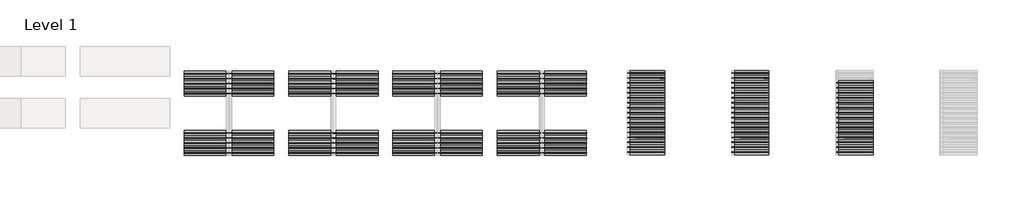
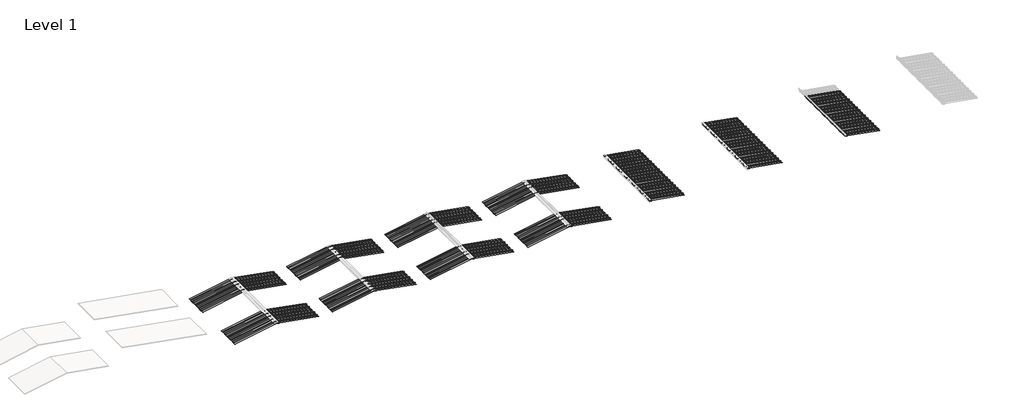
# One storey, part 1 of 14: 129 members.
"""IFC4 building model written with IfcOpenShell, lengths in millimetres."""

from ifc_helpers import new_model, si_unit, origin, place, context, project, spatial, transform, mapped, element, save
from components import rectangular_mullion_85015836, rectangular_mullion_6e78ad83

model = new_model("IFC4")

# Units and contexts
model_context = context("Model", 3, world=origin())
ifc_project = project(units=[si_unit("LENGTHUNIT", "METRE", prefix="MILLI")], contexts=[model_context])

# Site, building, storey
site = spatial("IfcSite", under=ifc_project)
building = spatial("IfcBuilding", under=site)
storey = spatial("IfcBuildingStorey", under=building, Name="Level 1", Elevation=0.0)

# Members
placement = place(None, origin())
rectangular_mullion_shape = rectangular_mullion_85015836(model_context)
element("IfcMember", 1, ObjectType="Rectangular Mullion : Parisienne 1000 - Metal - AZURO 0102", at=placement, inside=storey, context=model_context, shape_type="MappedRepresentation", body=[
    mapped(rectangular_mullion_shape, transform((-10442.9704237, 42107.7785953, 546.6136402), x_axis=(0.0, 1.0, 0.0), y_axis=(-0.17364817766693, 0.0, -0.9848077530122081), z_axis=(-0.9848077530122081, 0.0, 0.17364817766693))),
])
element("IfcMember", 2, ObjectType="Rectangular Mullion : Parisienne 1000 - Metal - AZURO 0102", at=placement, inside=storey, context=model_context, shape_type="MappedRepresentation", body=[
    mapped(rectangular_mullion_shape, transform((-10442.9704237, 42440.7785953, 546.6136402), x_axis=(0.0, 1.0, 0.0), y_axis=(-0.17364817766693, 0.0, -0.9848077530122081), z_axis=(-0.9848077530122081, 0.0, 0.17364817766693))),
])
element("IfcMember", 3, ObjectType="Rectangular Mullion : Parisienne 1000 - Metal - AZURO 0102", at=placement, inside=storey, context=model_context, shape_type="MappedRepresentation", body=[
    mapped(rectangular_mullion_shape, transform((-10442.9704237, 42773.7785953, 546.6136402), x_axis=(0.0, 1.0, 0.0), y_axis=(-0.17364817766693, 0.0, -0.9848077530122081), z_axis=(-0.9848077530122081, 0.0, 0.17364817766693))),
])
element("IfcMember", 4, ObjectType="Rectangular Mullion : Parisienne 1000 - Metal - AZURO 0102", at=placement, inside=storey, context=model_context, shape_type="MappedRepresentation", body=[
    mapped(rectangular_mullion_shape, transform((-10442.9704237, 43106.7785953, 546.6136402), x_axis=(0.0, 1.0, 0.0), y_axis=(-0.17364817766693, 0.0, -0.9848077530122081), z_axis=(-0.9848077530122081, 0.0, 0.17364817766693))),
])
element("IfcMember", 5, ObjectType="Rectangular Mullion : Parisienne 1000 - Metal - AZURO 0102", at=placement, inside=storey, context=model_context, shape_type="MappedRepresentation", body=[
    mapped(rectangular_mullion_shape, transform((-10442.9704237, 43439.7785953, 546.6136402), x_axis=(0.0, 1.0, 0.0), y_axis=(-0.17364817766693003, 0.0, -0.9848077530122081), z_axis=(-0.9848077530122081, 0.0, 0.17364817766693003))),
])
element("IfcMember", 6, ObjectType="Rectangular Mullion : Parisienne 1000 - Metal - AZURO 0102", at=placement, inside=storey, context=model_context, shape_type="MappedRepresentation", body=[
    mapped(rectangular_mullion_shape, transform((-10442.9704237, 46103.7785953, 546.6136402), x_axis=(0.0, 1.0, 0.0), y_axis=(-0.17364817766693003, 0.0, -0.9848077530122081), z_axis=(-0.9848077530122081, 0.0, 0.17364817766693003))),
])
element("IfcMember", 7, ObjectType="Rectangular Mullion : Parisienne 1000 - Metal - AZURO 0102", at=placement, inside=storey, context=model_context, shape_type="MappedRepresentation", body=[
    mapped(rectangular_mullion_shape, transform((-10442.9704237, 46436.7785953, 546.6136402), x_axis=(0.0, 1.0, 0.0), y_axis=(-0.17364817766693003, 0.0, -0.9848077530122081), z_axis=(-0.9848077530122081, 0.0, 0.17364817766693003))),
])
element("IfcMember", 8, ObjectType="Rectangular Mullion : Parisienne 1000 - Metal - AZURO 0102", at=placement, inside=storey, context=model_context, shape_type="MappedRepresentation", body=[
    mapped(rectangular_mullion_shape, transform((-10442.9704237, 46769.7785953, 546.6136402), x_axis=(0.0, 1.0, 0.0), y_axis=(-0.17364817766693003, 0.0, -0.9848077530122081), z_axis=(-0.9848077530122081, 0.0, 0.17364817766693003))),
])
element("IfcMember", 9, ObjectType="Rectangular Mullion : Parisienne 1000 - Metal - AZURO 0102", at=placement, inside=storey, context=model_context, shape_type="MappedRepresentation", body=[
    mapped(rectangular_mullion_shape, transform((-10442.9704237, 47102.7785953, 546.6136402), x_axis=(0.0, 1.0, 0.0), y_axis=(-0.17364817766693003, 0.0, -0.9848077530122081), z_axis=(-0.9848077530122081, 0.0, 0.17364817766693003))),
])
element("IfcMember", 10, ObjectType="Rectangular Mullion : Parisienne 1000 - Metal - AZURO 0102", at=placement, inside=storey, context=model_context, shape_type="MappedRepresentation", body=[
    mapped(rectangular_mullion_shape, transform((-10442.9704237, 47435.7785953, 546.6136402), x_axis=(0.0, 1.0, 0.0), y_axis=(-0.17364817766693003, 0.0, -0.9848077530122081), z_axis=(-0.9848077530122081, 0.0, 0.17364817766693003))),
])
element("IfcMember", 11, ObjectType="Rectangular Mullion : Parisienne 1000 - Metal - AZURO 0102", at=placement, inside=storey, context=model_context, shape_type="MappedRepresentation", body=[
    mapped(rectangular_mullion_shape, transform((-10442.9704237, 47435.7785953, 546.6136402), x_axis=(0.0, -1.0, 0.0), y_axis=(0.1736481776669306, 0.0, -0.984807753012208), z_axis=(0.984807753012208, 0.0, 0.1736481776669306))),
])
element("IfcMember", 12, ObjectType="Rectangular Mullion : Parisienne 1000 - Metal - AZURO 0102", at=placement, inside=storey, context=model_context, shape_type="MappedRepresentation", body=[
    mapped(rectangular_mullion_shape, transform((-10442.9704237, 47102.7785953, 546.6136402), x_axis=(0.0, -1.0, 0.0), y_axis=(0.1736481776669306, 0.0, -0.984807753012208), z_axis=(0.984807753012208, 0.0, 0.1736481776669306))),
])
element("IfcMember", 13, ObjectType="Rectangular Mullion : Parisienne 1000 - Metal - AZURO 0102", at=placement, inside=storey, context=model_context, shape_type="MappedRepresentation", body=[
    mapped(rectangular_mullion_shape, transform((-10442.9704237, 46769.7785953, 546.6136402), x_axis=(0.0, -1.0, 0.0), y_axis=(0.1736481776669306, 0.0, -0.984807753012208), z_axis=(0.984807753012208, 0.0, 0.1736481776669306))),
])
element("IfcMember", 14, ObjectType="Rectangular Mullion : Parisienne 1000 - Metal - AZURO 0102", at=placement, inside=storey, context=model_context, shape_type="MappedRepresentation", body=[
    mapped(rectangular_mullion_shape, transform((-10442.9704237, 46436.7785953, 546.6136402), x_axis=(0.0, -1.0, 0.0), y_axis=(0.1736481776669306, 0.0, -0.984807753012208), z_axis=(0.984807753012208, 0.0, 0.1736481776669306))),
])
element("IfcMember", 15, ObjectType="Rectangular Mullion : Parisienne 1000 - Metal - AZURO 0102", at=placement, inside=storey, context=model_context, shape_type="MappedRepresentation", body=[
    mapped(rectangular_mullion_shape, transform((-10442.9704237, 46103.7785953, 546.6136402), x_axis=(0.0, -1.0, 0.0), y_axis=(0.1736481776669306, 0.0, -0.984807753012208), z_axis=(0.984807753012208, 0.0, 0.1736481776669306))),
])
element("IfcMember", 16, ObjectType="Rectangular Mullion : Parisienne 1000 - Metal - AZURO 0102", at=placement, inside=storey, context=model_context, shape_type="MappedRepresentation", body=[
    mapped(rectangular_mullion_shape, transform((-10442.9704237, 43439.7785953, 546.6136402), x_axis=(0.0, -1.0, 0.0), y_axis=(0.1736481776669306, 0.0, -0.984807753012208), z_axis=(0.984807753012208, 0.0, 0.1736481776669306))),
])
element("IfcMember", 17, ObjectType="Rectangular Mullion : Parisienne 1000 - Metal - AZURO 0102", at=placement, inside=storey, context=model_context, shape_type="MappedRepresentation", body=[
    mapped(rectangular_mullion_shape, transform((-10442.9704237, 43106.7785953, 546.6136402), x_axis=(0.0, -1.0, 0.0), y_axis=(0.1736481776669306, 0.0, -0.984807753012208), z_axis=(0.984807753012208, 0.0, 0.1736481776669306))),
])
element("IfcMember", 18, ObjectType="Rectangular Mullion : Parisienne 1000 - Metal - AZURO 0102", at=placement, inside=storey, context=model_context, shape_type="MappedRepresentation", body=[
    mapped(rectangular_mullion_shape, transform((-10442.9704237, 42773.7785953, 546.6136402), x_axis=(0.0, -1.0, 0.0), y_axis=(0.17364817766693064, 0.0, -0.984807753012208), z_axis=(0.984807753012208, 0.0, 0.17364817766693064))),
])
element("IfcMember", 19, ObjectType="Rectangular Mullion : Parisienne 1000 - Metal - AZURO 0102", at=placement, inside=storey, context=model_context, shape_type="MappedRepresentation", body=[
    mapped(rectangular_mullion_shape, transform((-10442.9704237, 42440.7785953, 546.6136402), x_axis=(0.0, -1.0, 0.0), y_axis=(0.1736481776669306, 0.0, -0.984807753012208), z_axis=(0.984807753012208, 0.0, 0.1736481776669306))),
])
element("IfcMember", 20, ObjectType="Rectangular Mullion : Parisienne 1000 - Metal - AZURO 0102", at=placement, inside=storey, context=model_context, shape_type="MappedRepresentation", body=[
    mapped(rectangular_mullion_shape, transform((-10442.9704237, 42107.7785953, 546.6136402), x_axis=(0.0, -1.0, 0.0), y_axis=(0.1736481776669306, 0.0, -0.984807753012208), z_axis=(0.984807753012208, 0.0, 0.1736481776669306))),
])
element("IfcMember", 21, ObjectType="Rectangular Mullion : Parisienne 1000 - Metal - AZURO 0102", at=placement, inside=storey, context=model_context, shape_type="MappedRepresentation", body=[
    mapped(rectangular_mullion_shape, transform((-3442.9704237, 42107.7785953, 546.6136402), x_axis=(0.0, 1.0, 0.0), y_axis=(-0.1736481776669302, 0.0, -0.9848077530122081), z_axis=(-0.984807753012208, 0.0, 0.17364817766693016))),
])
element("IfcMember", 22, ObjectType="Rectangular Mullion : Parisienne 1000 - Metal - AZURO 0102", at=placement, inside=storey, context=model_context, shape_type="MappedRepresentation", body=[
    mapped(rectangular_mullion_shape, transform((-3442.9704237, 42440.7785953, 546.6136402), x_axis=(0.0, 1.0, 0.0), y_axis=(-0.1736481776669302, 0.0, -0.9848077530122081), z_axis=(-0.984807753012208, 0.0, 0.17364817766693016))),
])
element("IfcMember", 23, ObjectType="Rectangular Mullion : Parisienne 1000 - Metal - AZURO 0102", at=placement, inside=storey, context=model_context, shape_type="MappedRepresentation", body=[
    mapped(rectangular_mullion_shape, transform((-3442.9704237, 42773.7785953, 546.6136402), x_axis=(0.0, 1.0, 0.0), y_axis=(-0.1736481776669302, 0.0, -0.9848077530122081), z_axis=(-0.984807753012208, 0.0, 0.17364817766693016))),
])
element("IfcMember", 24, ObjectType="Rectangular Mullion : Parisienne 1000 - Metal - AZURO 0102", at=placement, inside=storey, context=model_context, shape_type="MappedRepresentation", body=[
    mapped(rectangular_mullion_shape, transform((-3442.9704237, 43106.7785953, 546.6136402), x_axis=(0.0, 1.0, 0.0), y_axis=(-0.1736481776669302, 0.0, -0.9848077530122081), z_axis=(-0.984807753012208, 0.0, 0.17364817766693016))),
])
element("IfcMember", 25, ObjectType="Rectangular Mullion : Parisienne 1000 - Metal - AZURO 0102", at=placement, inside=storey, context=model_context, shape_type="MappedRepresentation", body=[
    mapped(rectangular_mullion_shape, transform((-3442.9704237, 43439.7785953, 546.6136402), x_axis=(0.0, 1.0, 0.0), y_axis=(-0.1736481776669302, 0.0, -0.9848077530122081), z_axis=(-0.984807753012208, 0.0, 0.17364817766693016))),
])
element("IfcMember", 26, ObjectType="Rectangular Mullion : Parisienne 1000 - Metal - AZURO 0102", at=placement, inside=storey, context=model_context, shape_type="MappedRepresentation", body=[
    mapped(rectangular_mullion_shape, transform((-3442.9704237, 46103.7785953, 546.6136402), x_axis=(0.0, 1.0, 0.0), y_axis=(-0.1736481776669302, 0.0, -0.9848077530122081), z_axis=(-0.984807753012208, 0.0, 0.17364817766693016))),
])
element("IfcMember", 27, ObjectType="Rectangular Mullion : Parisienne 1000 - Metal - AZURO 0102", at=placement, inside=storey, context=model_context, shape_type="MappedRepresentation", body=[
    mapped(rectangular_mullion_shape, transform((-3442.9704237, 46436.7785953, 546.6136402), x_axis=(0.0, 1.0, 0.0), y_axis=(-0.1736481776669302, 0.0, -0.9848077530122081), z_axis=(-0.984807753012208, 0.0, 0.17364817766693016))),
])
element("IfcMember", 28, ObjectType="Rectangular Mullion : Parisienne 1000 - Metal - AZURO 0102", at=placement, inside=storey, context=model_context, shape_type="MappedRepresentation", body=[
    mapped(rectangular_mullion_shape, transform((-3442.9704237, 46769.7785953, 546.6136402), x_axis=(0.0, 1.0, 0.0), y_axis=(-0.1736481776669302, 0.0, -0.9848077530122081), z_axis=(-0.984807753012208, 0.0, 0.17364817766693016))),
])
element("IfcMember", 29, ObjectType="Rectangular Mullion : Parisienne 1000 - Metal - AZURO 0102", at=placement, inside=storey, context=model_context, shape_type="MappedRepresentation", body=[
    mapped(rectangular_mullion_shape, transform((-3442.9704237, 47102.7785953, 546.6136402), x_axis=(0.0, 1.0, 0.0), y_axis=(-0.1736481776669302, 0.0, -0.9848077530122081), z_axis=(-0.984807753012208, 0.0, 0.17364817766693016))),
])
element("IfcMember", 30, ObjectType="Rectangular Mullion : Parisienne 1000 - Metal - AZURO 0102", at=placement, inside=storey, context=model_context, shape_type="MappedRepresentation", body=[
    mapped(rectangular_mullion_shape, transform((-3442.9704237, 47435.7785953, 546.6136402), x_axis=(0.0, 1.0, 0.0), y_axis=(-0.1736481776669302, 0.0, -0.9848077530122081), z_axis=(-0.984807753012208, 0.0, 0.17364817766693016))),
])
element("IfcMember", 31, ObjectType="Rectangular Mullion : Parisienne 1000 - Metal - AZURO 0102", at=placement, inside=storey, context=model_context, shape_type="MappedRepresentation", body=[
    mapped(rectangular_mullion_shape, transform((-3442.9704237, 47435.7785953, 546.6136402), x_axis=(0.0, -1.0, 0.0), y_axis=(0.17364817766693, 0.0, -0.9848077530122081), z_axis=(0.9848077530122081, 0.0, 0.17364817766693))),
])
element("IfcMember", 32, ObjectType="Rectangular Mullion : Parisienne 1000 - Metal - AZURO 0102", at=placement, inside=storey, context=model_context, shape_type="MappedRepresentation", body=[
    mapped(rectangular_mullion_shape, transform((-3442.9704237, 47102.7785953, 546.6136402), x_axis=(0.0, -1.0, 0.0), y_axis=(0.17364817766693, 0.0, -0.9848077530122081), z_axis=(0.9848077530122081, 0.0, 0.17364817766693))),
])
element("IfcMember", 33, ObjectType="Rectangular Mullion : Parisienne 1000 - Metal - AZURO 0102", at=placement, inside=storey, context=model_context, shape_type="MappedRepresentation", body=[
    mapped(rectangular_mullion_shape, transform((-3442.9704237, 46769.7785953, 546.6136402), x_axis=(0.0, -1.0, 0.0), y_axis=(0.17364817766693, 0.0, -0.9848077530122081), z_axis=(0.9848077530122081, 0.0, 0.17364817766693))),
])
element("IfcMember", 34, ObjectType="Rectangular Mullion : Parisienne 1000 - Metal - AZURO 0102", at=placement, inside=storey, context=model_context, shape_type="MappedRepresentation", body=[
    mapped(rectangular_mullion_shape, transform((-3442.9704237, 46436.7785953, 546.6136402), x_axis=(0.0, -1.0, 0.0), y_axis=(0.17364817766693, 0.0, -0.9848077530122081), z_axis=(0.9848077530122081, 0.0, 0.17364817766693))),
])
element("IfcMember", 35, ObjectType="Rectangular Mullion : Parisienne 1000 - Metal - AZURO 0102", at=placement, inside=storey, context=model_context, shape_type="MappedRepresentation", body=[
    mapped(rectangular_mullion_shape, transform((-3442.9704237, 46103.7785953, 546.6136402), x_axis=(0.0, -1.0, 0.0), y_axis=(0.17364817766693, 0.0, -0.9848077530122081), z_axis=(0.9848077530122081, 0.0, 0.17364817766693))),
])
element("IfcMember", 36, ObjectType="Rectangular Mullion : Parisienne 1000 - Metal - AZURO 0102", at=placement, inside=storey, context=model_context, shape_type="MappedRepresentation", body=[
    mapped(rectangular_mullion_shape, transform((-3442.9704237, 43439.7785953, 546.6136402), x_axis=(0.0, -1.0, 0.0), y_axis=(0.17364817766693, 0.0, -0.9848077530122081), z_axis=(0.9848077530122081, 0.0, 0.17364817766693))),
])
element("IfcMember", 37, ObjectType="Rectangular Mullion : Parisienne 1000 - Metal - AZURO 0102", at=placement, inside=storey, context=model_context, shape_type="MappedRepresentation", body=[
    mapped(rectangular_mullion_shape, transform((-3442.9704237, 43106.7785953, 546.6136402), x_axis=(0.0, -1.0, 0.0), y_axis=(0.17364817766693, 0.0, -0.9848077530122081), z_axis=(0.9848077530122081, 0.0, 0.17364817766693))),
])
element("IfcMember", 38, ObjectType="Rectangular Mullion : Parisienne 1000 - Metal - AZURO 0102", at=placement, inside=storey, context=model_context, shape_type="MappedRepresentation", body=[
    mapped(rectangular_mullion_shape, transform((-3442.9704237, 42773.7785953, 546.6136402), x_axis=(0.0, -1.0, 0.0), y_axis=(0.17364817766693, 0.0, -0.9848077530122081), z_axis=(0.9848077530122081, 0.0, 0.17364817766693))),
])
element("IfcMember", 39, ObjectType="Rectangular Mullion : Parisienne 1000 - Metal - AZURO 0102", at=placement, inside=storey, context=model_context, shape_type="MappedRepresentation", body=[
    mapped(rectangular_mullion_shape, transform((-3442.9704237, 42440.7785953, 546.6136402), x_axis=(0.0, -1.0, 0.0), y_axis=(0.17364817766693, 0.0, -0.9848077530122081), z_axis=(0.9848077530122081, 0.0, 0.17364817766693))),
])
element("IfcMember", 40, ObjectType="Rectangular Mullion : Parisienne 1000 - Metal - AZURO 0102", at=placement, inside=storey, context=model_context, shape_type="MappedRepresentation", body=[
    mapped(rectangular_mullion_shape, transform((-3442.9704237, 42107.7785953, 546.6136402), x_axis=(0.0, -1.0, 0.0), y_axis=(0.17364817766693, 0.0, -0.9848077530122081), z_axis=(0.9848077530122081, 0.0, 0.17364817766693))),
])
element("IfcMember", 41, ObjectType="Rectangular Mullion : Parisienne 1000 - Metal - AZURO 0102", at=placement, inside=storey, context=model_context, shape_type="MappedRepresentation", body=[
    mapped(rectangular_mullion_shape, transform((3557.0295763, 42107.7785953, 546.6136402), x_axis=(0.0, 1.0, 0.0), y_axis=(-0.17364817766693, 0.0, -0.9848077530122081), z_axis=(-0.9848077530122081, 0.0, 0.17364817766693))),
])
element("IfcMember", 42, ObjectType="Rectangular Mullion : Parisienne 1000 - Metal - AZURO 0102", at=placement, inside=storey, context=model_context, shape_type="MappedRepresentation", body=[
    mapped(rectangular_mullion_shape, transform((3557.0295763, 42440.7785953, 546.6136402), x_axis=(0.0, 1.0, 0.0), y_axis=(-0.17364817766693, 0.0, -0.9848077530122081), z_axis=(-0.9848077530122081, 0.0, 0.17364817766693))),
])
element("IfcMember", 43, ObjectType="Rectangular Mullion : Parisienne 1000 - Metal - AZURO 0102", at=placement, inside=storey, context=model_context, shape_type="MappedRepresentation", body=[
    mapped(rectangular_mullion_shape, transform((3557.0295763, 42773.7785953, 546.6136402), x_axis=(0.0, 1.0, 0.0), y_axis=(-0.17364817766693, 0.0, -0.9848077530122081), z_axis=(-0.9848077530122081, 0.0, 0.17364817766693))),
])
element("IfcMember", 44, ObjectType="Rectangular Mullion : Parisienne 1000 - Metal - AZURO 0102", at=placement, inside=storey, context=model_context, shape_type="MappedRepresentation", body=[
    mapped(rectangular_mullion_shape, transform((3557.0295763, 43106.7785953, 546.6136402), x_axis=(0.0, 1.0, 0.0), y_axis=(-0.17364817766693, 0.0, -0.9848077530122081), z_axis=(-0.9848077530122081, 0.0, 0.17364817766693))),
])
element("IfcMember", 45, ObjectType="Rectangular Mullion : Parisienne 1000 - Metal - AZURO 0102", at=placement, inside=storey, context=model_context, shape_type="MappedRepresentation", body=[
    mapped(rectangular_mullion_shape, transform((3557.0295763, 43439.7785953, 546.6136402), x_axis=(0.0, 1.0, 0.0), y_axis=(-0.17364817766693, 0.0, -0.9848077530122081), z_axis=(-0.9848077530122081, 0.0, 0.17364817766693))),
])
element("IfcMember", 46, ObjectType="Rectangular Mullion : Parisienne 1000 - Metal - AZURO 0102", at=placement, inside=storey, context=model_context, shape_type="MappedRepresentation", body=[
    mapped(rectangular_mullion_shape, transform((3557.0295763, 46103.7785953, 546.6136402), x_axis=(0.0, 1.0, 0.0), y_axis=(-0.17364817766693, 0.0, -0.9848077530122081), z_axis=(-0.9848077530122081, 0.0, 0.17364817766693))),
])
element("IfcMember", 47, ObjectType="Rectangular Mullion : Parisienne 1000 - Metal - AZURO 0102", at=placement, inside=storey, context=model_context, shape_type="MappedRepresentation", body=[
    mapped(rectangular_mullion_shape, transform((3557.0295763, 46436.7785953, 546.6136402), x_axis=(0.0, 1.0, 0.0), y_axis=(-0.17364817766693, 0.0, -0.9848077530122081), z_axis=(-0.9848077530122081, 0.0, 0.17364817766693))),
])
element("IfcMember", 48, ObjectType="Rectangular Mullion : Parisienne 1000 - Metal - AZURO 0102", at=placement, inside=storey, context=model_context, shape_type="MappedRepresentation", body=[
    mapped(rectangular_mullion_shape, transform((3557.0295763, 46769.7785953, 546.6136402), x_axis=(0.0, 1.0, 0.0), y_axis=(-0.17364817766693, 0.0, -0.9848077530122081), z_axis=(-0.9848077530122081, 0.0, 0.17364817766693))),
])
element("IfcMember", 49, ObjectType="Rectangular Mullion : Parisienne 1000 - Metal - AZURO 0102", at=placement, inside=storey, context=model_context, shape_type="MappedRepresentation", body=[
    mapped(rectangular_mullion_shape, transform((3557.0295763, 47102.7785953, 546.6136402), x_axis=(0.0, 1.0, 0.0), y_axis=(-0.17364817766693, 0.0, -0.9848077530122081), z_axis=(-0.9848077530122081, 0.0, 0.17364817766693))),
])
element("IfcMember", 50, ObjectType="Rectangular Mullion : Parisienne 1000 - Metal - AZURO 0102", at=placement, inside=storey, context=model_context, shape_type="MappedRepresentation", body=[
    mapped(rectangular_mullion_shape, transform((3557.0295763, 47435.7785953, 546.6136402), x_axis=(0.0, 1.0, 0.0), y_axis=(-0.17364817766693, 0.0, -0.9848077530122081), z_axis=(-0.9848077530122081, 0.0, 0.17364817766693))),
])
element("IfcMember", 51, ObjectType="Rectangular Mullion : Parisienne 1000 - Metal - AZURO 0102", at=placement, inside=storey, context=model_context, shape_type="MappedRepresentation", body=[
    mapped(rectangular_mullion_shape, transform((3557.0295763, 47435.7785953, 546.6136402), x_axis=(0.0, -1.0, 0.0), y_axis=(0.1736481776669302, 0.0, -0.9848077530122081), z_axis=(0.984807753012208, 0.0, 0.17364817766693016))),
])
element("IfcMember", 52, ObjectType="Rectangular Mullion : Parisienne 1000 - Metal - AZURO 0102", at=placement, inside=storey, context=model_context, shape_type="MappedRepresentation", body=[
    mapped(rectangular_mullion_shape, transform((3557.0295763, 47102.7785953, 546.6136402), x_axis=(0.0, -1.0, 0.0), y_axis=(0.1736481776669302, 0.0, -0.9848077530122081), z_axis=(0.984807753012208, 0.0, 0.17364817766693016))),
])
element("IfcMember", 53, ObjectType="Rectangular Mullion : Parisienne 1000 - Metal - AZURO 0102", at=placement, inside=storey, context=model_context, shape_type="MappedRepresentation", body=[
    mapped(rectangular_mullion_shape, transform((3557.0295763, 46769.7785953, 546.6136402), x_axis=(0.0, -1.0, 0.0), y_axis=(0.1736481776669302, 0.0, -0.9848077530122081), z_axis=(0.984807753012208, 0.0, 0.17364817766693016))),
])
element("IfcMember", 54, ObjectType="Rectangular Mullion : Parisienne 1000 - Metal - AZURO 0102", at=placement, inside=storey, context=model_context, shape_type="MappedRepresentation", body=[
    mapped(rectangular_mullion_shape, transform((3557.0295763, 46436.7785953, 546.6136402), x_axis=(0.0, -1.0, 0.0), y_axis=(0.1736481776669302, 0.0, -0.9848077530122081), z_axis=(0.984807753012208, 0.0, 0.17364817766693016))),
])
element("IfcMember", 55, ObjectType="Rectangular Mullion : Parisienne 1000 - Metal - AZURO 0102", at=placement, inside=storey, context=model_context, shape_type="MappedRepresentation", body=[
    mapped(rectangular_mullion_shape, transform((3557.0295763, 46103.7785953, 546.6136402), x_axis=(0.0, -1.0, 0.0), y_axis=(0.1736481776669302, 0.0, -0.9848077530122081), z_axis=(0.984807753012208, 0.0, 0.17364817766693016))),
])
element("IfcMember", 56, ObjectType="Rectangular Mullion : Parisienne 1000 - Metal - AZURO 0102", at=placement, inside=storey, context=model_context, shape_type="MappedRepresentation", body=[
    mapped(rectangular_mullion_shape, transform((3557.0295763, 43439.7785953, 546.6136402), x_axis=(0.0, -1.0, 0.0), y_axis=(0.1736481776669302, 0.0, -0.9848077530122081), z_axis=(0.984807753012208, 0.0, 0.17364817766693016))),
])
element("IfcMember", 57, ObjectType="Rectangular Mullion : Parisienne 1000 - Metal - AZURO 0102", at=placement, inside=storey, context=model_context, shape_type="MappedRepresentation", body=[
    mapped(rectangular_mullion_shape, transform((3557.0295763, 43106.7785953, 546.6136402), x_axis=(0.0, -1.0, 0.0), y_axis=(0.1736481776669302, 0.0, -0.9848077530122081), z_axis=(0.984807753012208, 0.0, 0.17364817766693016))),
])
element("IfcMember", 58, ObjectType="Rectangular Mullion : Parisienne 1000 - Metal - AZURO 0102", at=placement, inside=storey, context=model_context, shape_type="MappedRepresentation", body=[
    mapped(rectangular_mullion_shape, transform((3557.0295763, 42773.7785953, 546.6136402), x_axis=(0.0, -1.0, 0.0), y_axis=(0.1736481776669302, 0.0, -0.9848077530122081), z_axis=(0.984807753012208, 0.0, 0.17364817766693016))),
])
element("IfcMember", 59, ObjectType="Rectangular Mullion : Parisienne 1000 - Metal - AZURO 0102", at=placement, inside=storey, context=model_context, shape_type="MappedRepresentation", body=[
    mapped(rectangular_mullion_shape, transform((3557.0295763, 42440.7785953, 546.6136402), x_axis=(0.0, -1.0, 0.0), y_axis=(0.1736481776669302, 0.0, -0.9848077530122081), z_axis=(0.984807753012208, 0.0, 0.17364817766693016))),
])
element("IfcMember", 60, ObjectType="Rectangular Mullion : Parisienne 1000 - Metal - AZURO 0102", at=placement, inside=storey, context=model_context, shape_type="MappedRepresentation", body=[
    mapped(rectangular_mullion_shape, transform((3557.0295763, 42107.7785953, 546.6136402), x_axis=(0.0, -1.0, 0.0), y_axis=(0.1736481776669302, 0.0, -0.9848077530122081), z_axis=(0.984807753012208, 0.0, 0.17364817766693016))),
])
element("IfcMember", 61, ObjectType="Rectangular Mullion : Parisienne 1000 - Metal - AZURO 0102", at=placement, inside=storey, context=model_context, shape_type="MappedRepresentation", body=[
    mapped(rectangular_mullion_shape, transform((10557.0295763, 42107.7785953, 546.6136402), x_axis=(0.0, 1.0, 0.0), y_axis=(-0.1736481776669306, 0.0, -0.984807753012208), z_axis=(-0.984807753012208, 0.0, 0.1736481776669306))),
])
element("IfcMember", 62, ObjectType="Rectangular Mullion : Parisienne 1000 - Metal - AZURO 0102", at=placement, inside=storey, context=model_context, shape_type="MappedRepresentation", body=[
    mapped(rectangular_mullion_shape, transform((10557.0295763, 42440.7785953, 546.6136402), x_axis=(0.0, 1.0, 0.0), y_axis=(-0.1736481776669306, 0.0, -0.984807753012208), z_axis=(-0.984807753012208, 0.0, 0.1736481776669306))),
])
element("IfcMember", 63, ObjectType="Rectangular Mullion : Parisienne 1000 - Metal - AZURO 0102", at=placement, inside=storey, context=model_context, shape_type="MappedRepresentation", body=[
    mapped(rectangular_mullion_shape, transform((10557.0295763, 42773.7785953, 546.6136402), x_axis=(0.0, 1.0, 0.0), y_axis=(-0.1736481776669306, 0.0, -0.984807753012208), z_axis=(-0.984807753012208, 0.0, 0.1736481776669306))),
])
element("IfcMember", 64, ObjectType="Rectangular Mullion : Parisienne 1000 - Metal - AZURO 0102", at=placement, inside=storey, context=model_context, shape_type="MappedRepresentation", body=[
    mapped(rectangular_mullion_shape, transform((10557.0295763, 43106.7785953, 546.6136402), x_axis=(0.0, 1.0, 0.0), y_axis=(-0.1736481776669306, 0.0, -0.984807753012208), z_axis=(-0.984807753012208, 0.0, 0.1736481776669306))),
])
element("IfcMember", 65, ObjectType="Rectangular Mullion : Parisienne 1000 - Metal - AZURO 0102", at=placement, inside=storey, context=model_context, shape_type="MappedRepresentation", body=[
    mapped(rectangular_mullion_shape, transform((10557.0295763, 43439.7785953, 546.6136402), x_axis=(0.0, 1.0, 0.0), y_axis=(-0.1736481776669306, 0.0, -0.984807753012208), z_axis=(-0.984807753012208, 0.0, 0.1736481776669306))),
])
element("IfcMember", 66, ObjectType="Rectangular Mullion : Parisienne 1000 - Metal - AZURO 0102", at=placement, inside=storey, context=model_context, shape_type="MappedRepresentation", body=[
    mapped(rectangular_mullion_shape, transform((10557.0295763, 46103.7785953, 546.6136402), x_axis=(0.0, 1.0, 0.0), y_axis=(-0.17364817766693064, 0.0, -0.984807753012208), z_axis=(-0.984807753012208, 0.0, 0.17364817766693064))),
])
element("IfcMember", 67, ObjectType="Rectangular Mullion : Parisienne 1000 - Metal - AZURO 0102", at=placement, inside=storey, context=model_context, shape_type="MappedRepresentation", body=[
    mapped(rectangular_mullion_shape, transform((10557.0295763, 46436.7785953, 546.6136402), x_axis=(0.0, 1.0, 0.0), y_axis=(-0.17364817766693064, 0.0, -0.984807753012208), z_axis=(-0.984807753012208, 0.0, 0.17364817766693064))),
])
element("IfcMember", 68, ObjectType="Rectangular Mullion : Parisienne 1000 - Metal - AZURO 0102", at=placement, inside=storey, context=model_context, shape_type="MappedRepresentation", body=[
    mapped(rectangular_mullion_shape, transform((10557.0295763, 46769.7785953, 546.6136402), x_axis=(0.0, 1.0, 0.0), y_axis=(-0.17364817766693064, 0.0, -0.984807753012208), z_axis=(-0.984807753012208, 0.0, 0.17364817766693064))),
])
element("IfcMember", 69, ObjectType="Rectangular Mullion : Parisienne 1000 - Metal - AZURO 0102", at=placement, inside=storey, context=model_context, shape_type="MappedRepresentation", body=[
    mapped(rectangular_mullion_shape, transform((10557.0295763, 47102.7785953, 546.6136402), x_axis=(0.0, 1.0, 0.0), y_axis=(-0.17364817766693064, 0.0, -0.984807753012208), z_axis=(-0.984807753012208, 0.0, 0.17364817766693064))),
])
element("IfcMember", 70, ObjectType="Rectangular Mullion : Parisienne 1000 - Metal - AZURO 0102", at=placement, inside=storey, context=model_context, shape_type="MappedRepresentation", body=[
    mapped(rectangular_mullion_shape, transform((10557.0295763, 47435.7785953, 546.6136402), x_axis=(0.0, 1.0, 0.0), y_axis=(-0.1736481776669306, 0.0, -0.984807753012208), z_axis=(-0.984807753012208, 0.0, 0.1736481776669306))),
])
element("IfcMember", 71, ObjectType="Rectangular Mullion : Parisienne 1000 - Metal - AZURO 0102", at=placement, inside=storey, context=model_context, shape_type="MappedRepresentation", body=[
    mapped(rectangular_mullion_shape, transform((10557.0295763, 47435.7785953, 546.6136402), x_axis=(0.0, -1.0, 0.0), y_axis=(0.17364817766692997, 0.0, -0.9848077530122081), z_axis=(0.9848077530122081, 0.0, 0.17364817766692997))),
])
element("IfcMember", 72, ObjectType="Rectangular Mullion : Parisienne 1000 - Metal - AZURO 0102", at=placement, inside=storey, context=model_context, shape_type="MappedRepresentation", body=[
    mapped(rectangular_mullion_shape, transform((10557.0295763, 47102.7785953, 546.6136402), x_axis=(0.0, -1.0, 0.0), y_axis=(0.17364817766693, 0.0, -0.9848077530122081), z_axis=(0.9848077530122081, 0.0, 0.17364817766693))),
])
element("IfcMember", 73, ObjectType="Rectangular Mullion : Parisienne 1000 - Metal - AZURO 0102", at=placement, inside=storey, context=model_context, shape_type="MappedRepresentation", body=[
    mapped(rectangular_mullion_shape, transform((10557.0295763, 46769.7785953, 546.6136402), x_axis=(0.0, -1.0, 0.0), y_axis=(0.17364817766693, 0.0, -0.9848077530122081), z_axis=(0.9848077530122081, 0.0, 0.17364817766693))),
])
element("IfcMember", 74, ObjectType="Rectangular Mullion : Parisienne 1000 - Metal - AZURO 0102", at=placement, inside=storey, context=model_context, shape_type="MappedRepresentation", body=[
    mapped(rectangular_mullion_shape, transform((10557.0295763, 46436.7785953, 546.6136402), x_axis=(0.0, -1.0, 0.0), y_axis=(0.17364817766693, 0.0, -0.9848077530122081), z_axis=(0.9848077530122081, 0.0, 0.17364817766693))),
])
element("IfcMember", 75, ObjectType="Rectangular Mullion : Parisienne 1000 - Metal - AZURO 0102", at=placement, inside=storey, context=model_context, shape_type="MappedRepresentation", body=[
    mapped(rectangular_mullion_shape, transform((10557.0295763, 46103.7785953, 546.6136402), x_axis=(0.0, -1.0, 0.0), y_axis=(0.17364817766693, 0.0, -0.9848077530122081), z_axis=(0.9848077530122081, 0.0, 0.17364817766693))),
])
element("IfcMember", 76, ObjectType="Rectangular Mullion : Parisienne 1000 - Metal - AZURO 0102", at=placement, inside=storey, context=model_context, shape_type="MappedRepresentation", body=[
    mapped(rectangular_mullion_shape, transform((10557.0295763, 43439.7785953, 546.6136402), x_axis=(0.0, -1.0, 0.0), y_axis=(0.17364817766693, 0.0, -0.9848077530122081), z_axis=(0.9848077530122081, 0.0, 0.17364817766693))),
])
element("IfcMember", 77, ObjectType="Rectangular Mullion : Parisienne 1000 - Metal - AZURO 0102", at=placement, inside=storey, context=model_context, shape_type="MappedRepresentation", body=[
    mapped(rectangular_mullion_shape, transform((10557.0295763, 43106.7785953, 546.6136402), x_axis=(0.0, -1.0, 0.0), y_axis=(0.17364817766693, 0.0, -0.9848077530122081), z_axis=(0.9848077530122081, 0.0, 0.17364817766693))),
])
element("IfcMember", 78, ObjectType="Rectangular Mullion : Parisienne 1000 - Metal - AZURO 0102", at=placement, inside=storey, context=model_context, shape_type="MappedRepresentation", body=[
    mapped(rectangular_mullion_shape, transform((10557.0295763, 42773.7785953, 546.6136402), x_axis=(0.0, -1.0, 0.0), y_axis=(0.17364817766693, 0.0, -0.9848077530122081), z_axis=(0.9848077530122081, 0.0, 0.17364817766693))),
])
element("IfcMember", 79, ObjectType="Rectangular Mullion : Parisienne 1000 - Metal - AZURO 0102", at=placement, inside=storey, context=model_context, shape_type="MappedRepresentation", body=[
    mapped(rectangular_mullion_shape, transform((10557.0295763, 42440.7785953, 546.6136402), x_axis=(0.0, -1.0, 0.0), y_axis=(0.17364817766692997, 0.0, -0.9848077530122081), z_axis=(0.9848077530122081, 0.0, 0.17364817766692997))),
])
element("IfcMember", 80, ObjectType="Rectangular Mullion : Parisienne 1000 - Metal - AZURO 0102", at=placement, inside=storey, context=model_context, shape_type="MappedRepresentation", body=[
    mapped(rectangular_mullion_shape, transform((10557.0295763, 42107.7785953, 546.6136402), x_axis=(0.0, -1.0, 0.0), y_axis=(0.17364817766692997, 0.0, -0.9848077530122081), z_axis=(0.9848077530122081, 0.0, 0.17364817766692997))),
])
rectangular_mullion_2_shape = rectangular_mullion_6e78ad83(model_context)
element("IfcMember", 81, ObjectType="Rectangular Mullion : Parisienne 1000 - Metal - AZURO 0102", at=placement, inside=storey, context=model_context, shape_type="MappedRepresentation", body=[
    mapped(rectangular_mullion_2_shape, transform((16307.0295763, 42150.7785953, 458.4501498), x_axis=(0.0, 1.0, 0.0), y_axis=(-0.17364817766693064, 0.0, -0.9848077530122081), z_axis=(-0.9848077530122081, 0.0, 0.17364817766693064))),
])
element("IfcMember", 82, ObjectType="Rectangular Mullion : Parisienne 1000 - Metal - AZURO 0102", at=placement, inside=storey, context=model_context, shape_type="MappedRepresentation", body=[
    mapped(rectangular_mullion_2_shape, transform((16307.0295763, 42483.7785953, 458.4501498), x_axis=(0.0, 1.0, 0.0), y_axis=(-0.17364817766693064, 0.0, -0.9848077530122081), z_axis=(-0.9848077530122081, 0.0, 0.17364817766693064))),
])
element("IfcMember", 83, ObjectType="Rectangular Mullion : Parisienne 1000 - Metal - AZURO 0102", at=placement, inside=storey, context=model_context, shape_type="MappedRepresentation", body=[
    mapped(rectangular_mullion_2_shape, transform((16307.0295763, 42816.7785953, 458.4501498), x_axis=(0.0, 1.0, 0.0), y_axis=(-0.17364817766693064, 0.0, -0.9848077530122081), z_axis=(-0.9848077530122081, 0.0, 0.17364817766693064))),
])
element("IfcMember", 84, ObjectType="Rectangular Mullion : Parisienne 1000 - Metal - AZURO 0102", at=placement, inside=storey, context=model_context, shape_type="MappedRepresentation", body=[
    mapped(rectangular_mullion_2_shape, transform((16307.0295763, 43149.7785953, 458.4501498), x_axis=(0.0, 1.0, 0.0), y_axis=(-0.17364817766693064, 0.0, -0.9848077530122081), z_axis=(-0.9848077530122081, 0.0, 0.17364817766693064))),
])
element("IfcMember", 85, ObjectType="Rectangular Mullion : Parisienne 1000 - Metal - AZURO 0102", at=placement, inside=storey, context=model_context, shape_type="MappedRepresentation", body=[
    mapped(rectangular_mullion_2_shape, transform((16307.0295763, 43482.7785953, 458.4501498), x_axis=(0.0, 1.0, 0.0), y_axis=(-0.17364817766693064, 0.0, -0.9848077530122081), z_axis=(-0.9848077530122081, 0.0, 0.17364817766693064))),
])
element("IfcMember", 86, ObjectType="Rectangular Mullion : Parisienne 1000 - Metal - AZURO 0102", at=placement, inside=storey, context=model_context, shape_type="MappedRepresentation", body=[
    mapped(rectangular_mullion_2_shape, transform((16307.0295763, 43815.7785953, 458.4501498), x_axis=(0.0, 1.0, 0.0), y_axis=(-0.17364817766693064, 0.0, -0.9848077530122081), z_axis=(-0.9848077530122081, 0.0, 0.17364817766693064))),
])
element("IfcMember", 87, ObjectType="Rectangular Mullion : Parisienne 1000 - Metal - AZURO 0102", at=placement, inside=storey, context=model_context, shape_type="MappedRepresentation", body=[
    mapped(rectangular_mullion_2_shape, transform((16307.0295763, 44148.7785953, 458.4501498), x_axis=(0.0, 1.0, 0.0), y_axis=(-0.17364817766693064, 0.0, -0.9848077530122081), z_axis=(-0.9848077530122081, 0.0, 0.17364817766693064))),
])
element("IfcMember", 88, ObjectType="Rectangular Mullion : Parisienne 1000 - Metal - AZURO 0102", at=placement, inside=storey, context=model_context, shape_type="MappedRepresentation", body=[
    mapped(rectangular_mullion_2_shape, transform((16307.0295763, 44481.7785953, 458.4501498), x_axis=(0.0, 1.0, 0.0), y_axis=(-0.17364817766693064, 0.0, -0.9848077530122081), z_axis=(-0.9848077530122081, 0.0, 0.17364817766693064))),
])
element("IfcMember", 89, ObjectType="Rectangular Mullion : Parisienne 1000 - Metal - AZURO 0102", at=placement, inside=storey, context=model_context, shape_type="MappedRepresentation", body=[
    mapped(rectangular_mullion_2_shape, transform((16307.0295763, 44814.7785953, 458.4501498), x_axis=(0.0, 1.0, 0.0), y_axis=(-0.17364817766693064, 0.0, -0.9848077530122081), z_axis=(-0.9848077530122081, 0.0, 0.17364817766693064))),
])
element("IfcMember", 90, ObjectType="Rectangular Mullion : Parisienne 1000 - Metal - AZURO 0102", at=placement, inside=storey, context=model_context, shape_type="MappedRepresentation", body=[
    mapped(rectangular_mullion_2_shape, transform((16307.0295763, 45147.7785953, 458.4501498), x_axis=(0.0, 1.0, 0.0), y_axis=(-0.17364817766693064, 0.0, -0.9848077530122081), z_axis=(-0.9848077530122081, 0.0, 0.17364817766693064))),
])
element("IfcMember", 91, ObjectType="Rectangular Mullion : Parisienne 1000 - Metal - AZURO 0102", at=placement, inside=storey, context=model_context, shape_type="MappedRepresentation", body=[
    mapped(rectangular_mullion_2_shape, transform((16307.0295763, 45480.7785953, 458.4501498), x_axis=(0.0, 1.0, 0.0), y_axis=(-0.17364817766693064, 0.0, -0.9848077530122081), z_axis=(-0.9848077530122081, 0.0, 0.17364817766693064))),
])
element("IfcMember", 92, ObjectType="Rectangular Mullion : Parisienne 1000 - Metal - AZURO 0102", at=placement, inside=storey, context=model_context, shape_type="MappedRepresentation", body=[
    mapped(rectangular_mullion_2_shape, transform((16307.0295763, 45813.7785953, 458.4501498), x_axis=(0.0, 1.0, 0.0), y_axis=(-0.17364817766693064, 0.0, -0.9848077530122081), z_axis=(-0.9848077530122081, 0.0, 0.17364817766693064))),
])
element("IfcMember", 93, ObjectType="Rectangular Mullion : Parisienne 1000 - Metal - AZURO 0102", at=placement, inside=storey, context=model_context, shape_type="MappedRepresentation", body=[
    mapped(rectangular_mullion_2_shape, transform((16307.0295763, 46146.7785953, 458.4501498), x_axis=(0.0, 1.0, 0.0), y_axis=(-0.17364817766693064, 0.0, -0.9848077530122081), z_axis=(-0.9848077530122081, 0.0, 0.17364817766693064))),
])
element("IfcMember", 94, ObjectType="Rectangular Mullion : Parisienne 1000 - Metal - AZURO 0102", at=placement, inside=storey, context=model_context, shape_type="MappedRepresentation", body=[
    mapped(rectangular_mullion_2_shape, transform((16307.0295763, 46479.7785953, 458.4501498), x_axis=(0.0, 1.0, 0.0), y_axis=(-0.17364817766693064, 0.0, -0.9848077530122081), z_axis=(-0.9848077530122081, 0.0, 0.17364817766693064))),
])
element("IfcMember", 95, ObjectType="Rectangular Mullion : Parisienne 1000 - Metal - AZURO 0102", at=placement, inside=storey, context=model_context, shape_type="MappedRepresentation", body=[
    mapped(rectangular_mullion_2_shape, transform((16307.0295763, 46812.7785953, 458.4501498), x_axis=(0.0, 1.0, 0.0), y_axis=(-0.17364817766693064, 0.0, -0.9848077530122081), z_axis=(-0.9848077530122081, 0.0, 0.17364817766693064))),
])
element("IfcMember", 96, ObjectType="Rectangular Mullion : Parisienne 1000 - Metal - AZURO 0102", at=placement, inside=storey, context=model_context, shape_type="MappedRepresentation", body=[
    mapped(rectangular_mullion_2_shape, transform((16307.0295763, 47145.7785953, 458.4501498), x_axis=(0.0, 1.0, 0.0), y_axis=(-0.17364817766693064, 0.0, -0.9848077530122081), z_axis=(-0.9848077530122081, 0.0, 0.17364817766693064))),
])
element("IfcMember", 97, ObjectType="Rectangular Mullion : Parisienne 1000 - Metal - AZURO 0102", at=placement, inside=storey, context=model_context, shape_type="MappedRepresentation", body=[
    mapped(rectangular_mullion_2_shape, transform((16307.0295763, 47478.7785953, 458.4501498), x_axis=(0.0, 1.0, 0.0), y_axis=(-0.17364817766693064, 0.0, -0.9848077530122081), z_axis=(-0.9848077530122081, 0.0, 0.17364817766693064))),
])
element("IfcMember", 98, ObjectType="Rectangular Mullion : Parisienne 1000 - Metal - AZURO 0102", at=placement, inside=storey, context=model_context, shape_type="MappedRepresentation", body=[
    mapped(rectangular_mullion_2_shape, transform((23307.0295763, 42150.7785953, 458.4501498), x_axis=(0.0, 1.0, 0.0), y_axis=(-0.17364817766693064, 0.0, -0.9848077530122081), z_axis=(-0.9848077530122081, 0.0, 0.17364817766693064))),
])
element("IfcMember", 99, ObjectType="Rectangular Mullion : Parisienne 1000 - Metal - AZURO 0102", at=placement, inside=storey, context=model_context, shape_type="MappedRepresentation", body=[
    mapped(rectangular_mullion_2_shape, transform((23307.0295763, 42483.7785953, 458.4501498), x_axis=(0.0, 1.0, 0.0), y_axis=(-0.17364817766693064, 0.0, -0.9848077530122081), z_axis=(-0.9848077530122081, 0.0, 0.17364817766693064))),
])
element("IfcMember", 100, ObjectType="Rectangular Mullion : Parisienne 1000 - Metal - AZURO 0102", at=placement, inside=storey, context=model_context, shape_type="MappedRepresentation", body=[
    mapped(rectangular_mullion_2_shape, transform((23307.0295763, 42816.7785953, 458.4501498), x_axis=(0.0, 1.0, 0.0), y_axis=(-0.17364817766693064, 0.0, -0.9848077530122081), z_axis=(-0.9848077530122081, 0.0, 0.17364817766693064))),
])
element("IfcMember", 101, ObjectType="Rectangular Mullion : Parisienne 1000 - Metal - AZURO 0102", at=placement, inside=storey, context=model_context, shape_type="MappedRepresentation", body=[
    mapped(rectangular_mullion_2_shape, transform((23307.0295763, 43149.7785953, 458.4501498), x_axis=(0.0, 1.0, 0.0), y_axis=(-0.17364817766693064, 0.0, -0.9848077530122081), z_axis=(-0.9848077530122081, 0.0, 0.17364817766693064))),
])
element("IfcMember", 102, ObjectType="Rectangular Mullion : Parisienne 1000 - Metal - AZURO 0102", at=placement, inside=storey, context=model_context, shape_type="MappedRepresentation", body=[
    mapped(rectangular_mullion_2_shape, transform((23307.0295763, 43482.7785953, 458.4501498), x_axis=(0.0, 1.0, 0.0), y_axis=(-0.17364817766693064, 0.0, -0.9848077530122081), z_axis=(-0.9848077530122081, 0.0, 0.17364817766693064))),
])
element("IfcMember", 103, ObjectType="Rectangular Mullion : Parisienne 1000 - Metal - AZURO 0102", at=placement, inside=storey, context=model_context, shape_type="MappedRepresentation", body=[
    mapped(rectangular_mullion_2_shape, transform((23307.0295763, 43815.7785953, 458.4501498), x_axis=(0.0, 1.0, 0.0), y_axis=(-0.17364817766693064, 0.0, -0.9848077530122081), z_axis=(-0.9848077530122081, 0.0, 0.17364817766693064))),
])
element("IfcMember", 104, ObjectType="Rectangular Mullion : Parisienne 1000 - Metal - AZURO 0102", at=placement, inside=storey, context=model_context, shape_type="MappedRepresentation", body=[
    mapped(rectangular_mullion_2_shape, transform((23307.0295763, 44148.7785953, 458.4501498), x_axis=(0.0, 1.0, 0.0), y_axis=(-0.17364817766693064, 0.0, -0.9848077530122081), z_axis=(-0.9848077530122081, 0.0, 0.17364817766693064))),
])
element("IfcMember", 105, ObjectType="Rectangular Mullion : Parisienne 1000 - Metal - AZURO 0102", at=placement, inside=storey, context=model_context, shape_type="MappedRepresentation", body=[
    mapped(rectangular_mullion_2_shape, transform((23307.0295763, 44481.7785953, 458.4501498), x_axis=(0.0, 1.0, 0.0), y_axis=(-0.17364817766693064, 0.0, -0.9848077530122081), z_axis=(-0.9848077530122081, 0.0, 0.17364817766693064))),
])
element("IfcMember", 106, ObjectType="Rectangular Mullion : Parisienne 1000 - Metal - AZURO 0102", at=placement, inside=storey, context=model_context, shape_type="MappedRepresentation", body=[
    mapped(rectangular_mullion_2_shape, transform((23307.0295763, 44814.7785953, 458.4501498), x_axis=(0.0, 1.0, 0.0), y_axis=(-0.17364817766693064, 0.0, -0.9848077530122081), z_axis=(-0.9848077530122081, 0.0, 0.17364817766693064))),
])
element("IfcMember", 107, ObjectType="Rectangular Mullion : Parisienne 1000 - Metal - AZURO 0102", at=placement, inside=storey, context=model_context, shape_type="MappedRepresentation", body=[
    mapped(rectangular_mullion_2_shape, transform((23307.0295763, 45147.7785953, 458.4501498), x_axis=(0.0, 1.0, 0.0), y_axis=(-0.17364817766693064, 0.0, -0.9848077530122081), z_axis=(-0.9848077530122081, 0.0, 0.17364817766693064))),
])
element("IfcMember", 108, ObjectType="Rectangular Mullion : Parisienne 1000 - Metal - AZURO 0102", at=placement, inside=storey, context=model_context, shape_type="MappedRepresentation", body=[
    mapped(rectangular_mullion_2_shape, transform((23307.0295763, 45480.7785953, 458.4501498), x_axis=(0.0, 1.0, 0.0), y_axis=(-0.17364817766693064, 0.0, -0.9848077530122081), z_axis=(-0.9848077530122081, 0.0, 0.17364817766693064))),
])
element("IfcMember", 109, ObjectType="Rectangular Mullion : Parisienne 1000 - Metal - AZURO 0102", at=placement, inside=storey, context=model_context, shape_type="MappedRepresentation", body=[
    mapped(rectangular_mullion_2_shape, transform((23307.0295763, 45813.7785953, 458.4501498), x_axis=(0.0, 1.0, 0.0), y_axis=(-0.17364817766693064, 0.0, -0.9848077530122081), z_axis=(-0.9848077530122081, 0.0, 0.17364817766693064))),
])
element("IfcMember", 110, ObjectType="Rectangular Mullion : Parisienne 1000 - Metal - AZURO 0102", at=placement, inside=storey, context=model_context, shape_type="MappedRepresentation", body=[
    mapped(rectangular_mullion_2_shape, transform((23307.0295763, 46146.7785953, 458.4501498), x_axis=(0.0, 1.0, 0.0), y_axis=(-0.17364817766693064, 0.0, -0.9848077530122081), z_axis=(-0.9848077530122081, 0.0, 0.17364817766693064))),
])
element("IfcMember", 111, ObjectType="Rectangular Mullion : Parisienne 1000 - Metal - AZURO 0102", at=placement, inside=storey, context=model_context, shape_type="MappedRepresentation", body=[
    mapped(rectangular_mullion_2_shape, transform((23307.0295763, 46479.7785953, 458.4501498), x_axis=(0.0, 1.0, 0.0), y_axis=(-0.17364817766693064, 0.0, -0.9848077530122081), z_axis=(-0.9848077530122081, 0.0, 0.17364817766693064))),
])
element("IfcMember", 112, ObjectType="Rectangular Mullion : Parisienne 1000 - Metal - AZURO 0102", at=placement, inside=storey, context=model_context, shape_type="MappedRepresentation", body=[
    mapped(rectangular_mullion_2_shape, transform((23307.0295763, 46812.7785953, 458.4501498), x_axis=(0.0, 1.0, 0.0), y_axis=(-0.17364817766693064, 0.0, -0.9848077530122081), z_axis=(-0.9848077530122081, 0.0, 0.17364817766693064))),
])
element("IfcMember", 113, ObjectType="Rectangular Mullion : Parisienne 1000 - Metal - AZURO 0102", at=placement, inside=storey, context=model_context, shape_type="MappedRepresentation", body=[
    mapped(rectangular_mullion_2_shape, transform((23307.0295763, 47145.7785953, 458.4501498), x_axis=(0.0, 1.0, 0.0), y_axis=(-0.17364817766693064, 0.0, -0.9848077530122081), z_axis=(-0.9848077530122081, 0.0, 0.17364817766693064))),
])
element("IfcMember", 114, ObjectType="Rectangular Mullion : Parisienne 1000 - Metal - AZURO 0102", at=placement, inside=storey, context=model_context, shape_type="MappedRepresentation", body=[
    mapped(rectangular_mullion_2_shape, transform((23307.0295763, 47478.7785953, 458.4501498), x_axis=(0.0, 1.0, 0.0), y_axis=(-0.17364817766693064, 0.0, -0.9848077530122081), z_axis=(-0.9848077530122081, 0.0, 0.17364817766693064))),
])
element("IfcMember", 115, ObjectType="Rectangular Mullion : Parisienne 1000 - Metal - AZURO 0102", at=placement, inside=storey, context=model_context, shape_type="MappedRepresentation", body=[
    mapped(rectangular_mullion_2_shape, transform((30307.0295763, 42150.7785953, 458.4501498), x_axis=(0.0, 1.0, 0.0), y_axis=(-0.17364817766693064, 0.0, -0.9848077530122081), z_axis=(-0.9848077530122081, 0.0, 0.17364817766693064))),
])
element("IfcMember", 116, ObjectType="Rectangular Mullion : Parisienne 1000 - Metal - AZURO 0102", at=placement, inside=storey, context=model_context, shape_type="MappedRepresentation", body=[
    mapped(rectangular_mullion_2_shape, transform((30307.0295763, 42483.7785953, 458.4501498), x_axis=(0.0, 1.0, 0.0), y_axis=(-0.17364817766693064, 0.0, -0.9848077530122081), z_axis=(-0.9848077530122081, 0.0, 0.17364817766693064))),
])
element("IfcMember", 117, ObjectType="Rectangular Mullion : Parisienne 1000 - Metal - AZURO 0102", at=placement, inside=storey, context=model_context, shape_type="MappedRepresentation", body=[
    mapped(rectangular_mullion_2_shape, transform((30307.0295763, 42816.7785953, 458.4501498), x_axis=(0.0, 1.0, 0.0), y_axis=(-0.17364817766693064, 0.0, -0.9848077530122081), z_axis=(-0.9848077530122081, 0.0, 0.17364817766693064))),
])
element("IfcMember", 118, ObjectType="Rectangular Mullion : Parisienne 1000 - Metal - AZURO 0102", at=placement, inside=storey, context=model_context, shape_type="MappedRepresentation", body=[
    mapped(rectangular_mullion_2_shape, transform((30307.0295763, 43149.7785953, 458.4501498), x_axis=(0.0, 1.0, 0.0), y_axis=(-0.17364817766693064, 0.0, -0.9848077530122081), z_axis=(-0.9848077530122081, 0.0, 0.17364817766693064))),
])
element("IfcMember", 119, ObjectType="Rectangular Mullion : Parisienne 1000 - Metal - AZURO 0102", at=placement, inside=storey, context=model_context, shape_type="MappedRepresentation", body=[
    mapped(rectangular_mullion_2_shape, transform((30307.0295763, 43482.7785953, 458.4501498), x_axis=(0.0, 1.0, 0.0), y_axis=(-0.17364817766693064, 0.0, -0.9848077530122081), z_axis=(-0.9848077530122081, 0.0, 0.17364817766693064))),
])
element("IfcMember", 120, ObjectType="Rectangular Mullion : Parisienne 1000 - Metal - AZURO 0102", at=placement, inside=storey, context=model_context, shape_type="MappedRepresentation", body=[
    mapped(rectangular_mullion_2_shape, transform((30307.0295763, 43815.7785953, 458.4501498), x_axis=(0.0, 1.0, 0.0), y_axis=(-0.17364817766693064, 0.0, -0.9848077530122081), z_axis=(-0.9848077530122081, 0.0, 0.17364817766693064))),
])
element("IfcMember", 121, ObjectType="Rectangular Mullion : Parisienne 1000 - Metal - AZURO 0102", at=placement, inside=storey, context=model_context, shape_type="MappedRepresentation", body=[
    mapped(rectangular_mullion_2_shape, transform((30307.0295763, 44148.7785953, 458.4501498), x_axis=(0.0, 1.0, 0.0), y_axis=(-0.17364817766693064, 0.0, -0.9848077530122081), z_axis=(-0.9848077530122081, 0.0, 0.17364817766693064))),
])
element("IfcMember", 122, ObjectType="Rectangular Mullion : Parisienne 1000 - Metal - AZURO 0102", at=placement, inside=storey, context=model_context, shape_type="MappedRepresentation", body=[
    mapped(rectangular_mullion_2_shape, transform((30307.0295763, 44481.7785953, 458.4501498), x_axis=(0.0, 1.0, 0.0), y_axis=(-0.17364817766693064, 0.0, -0.9848077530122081), z_axis=(-0.9848077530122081, 0.0, 0.17364817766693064))),
])
element("IfcMember", 123, ObjectType="Rectangular Mullion : Parisienne 1000 - Metal - AZURO 0102", at=placement, inside=storey, context=model_context, shape_type="MappedRepresentation", body=[
    mapped(rectangular_mullion_2_shape, transform((30307.0295763, 44814.7785953, 458.4501498), x_axis=(0.0, 1.0, 0.0), y_axis=(-0.17364817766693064, 0.0, -0.9848077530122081), z_axis=(-0.9848077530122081, 0.0, 0.17364817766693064))),
])
element("IfcMember", 124, ObjectType="Rectangular Mullion : Parisienne 1000 - Metal - AZURO 0102", at=placement, inside=storey, context=model_context, shape_type="MappedRepresentation", body=[
    mapped(rectangular_mullion_2_shape, transform((30307.0295763, 45147.7785953, 458.4501498), x_axis=(0.0, 1.0, 0.0), y_axis=(-0.17364817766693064, 0.0, -0.9848077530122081), z_axis=(-0.9848077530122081, 0.0, 0.17364817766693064))),
])
element("IfcMember", 125, ObjectType="Rectangular Mullion : Parisienne 1000 - Metal - AZURO 0102", at=placement, inside=storey, context=model_context, shape_type="MappedRepresentation", body=[
    mapped(rectangular_mullion_2_shape, transform((30307.0295763, 45480.7785953, 458.4501498), x_axis=(0.0, 1.0, 0.0), y_axis=(-0.17364817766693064, 0.0, -0.9848077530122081), z_axis=(-0.9848077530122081, 0.0, 0.17364817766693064))),
])
element("IfcMember", 126, ObjectType="Rectangular Mullion : Parisienne 1000 - Metal - AZURO 0102", at=placement, inside=storey, context=model_context, shape_type="MappedRepresentation", body=[
    mapped(rectangular_mullion_2_shape, transform((30307.0295763, 45813.7785953, 458.4501498), x_axis=(0.0, 1.0, 0.0), y_axis=(-0.17364817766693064, 0.0, -0.9848077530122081), z_axis=(-0.9848077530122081, 0.0, 0.17364817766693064))),
])
element("IfcMember", 127, ObjectType="Rectangular Mullion : Parisienne 1000 - Metal - AZURO 0102", at=placement, inside=storey, context=model_context, shape_type="MappedRepresentation", body=[
    mapped(rectangular_mullion_2_shape, transform((30307.0295763, 46146.7785953, 458.4501498), x_axis=(0.0, 1.0, 0.0), y_axis=(-0.17364817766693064, 0.0, -0.9848077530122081), z_axis=(-0.9848077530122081, 0.0, 0.17364817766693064))),
])
element("IfcMember", 128, ObjectType="Rectangular Mullion : Parisienne 1000 - Metal - AZURO 0102", at=placement, inside=storey, context=model_context, shape_type="MappedRepresentation", body=[
    mapped(rectangular_mullion_2_shape, transform((30307.0295763, 46479.7785953, 458.4501498), x_axis=(0.0, 1.0, 0.0), y_axis=(-0.17364817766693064, 0.0, -0.9848077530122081), z_axis=(-0.9848077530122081, 0.0, 0.17364817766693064))),
])
element("IfcMember", 129, ObjectType="Rectangular Mullion : Parisienne 1000 - Metal - AZURO 0102", at=placement, inside=storey, context=model_context, shape_type="MappedRepresentation", body=[
    mapped(rectangular_mullion_2_shape, transform((30307.0295763, 46812.7785953, 458.4501498), x_axis=(0.0, 1.0, 0.0), y_axis=(-0.17364817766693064, 0.0, -0.9848077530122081), z_axis=(-0.9848077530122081, 0.0, 0.17364817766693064))),
])

save(model, "model.ifc")
